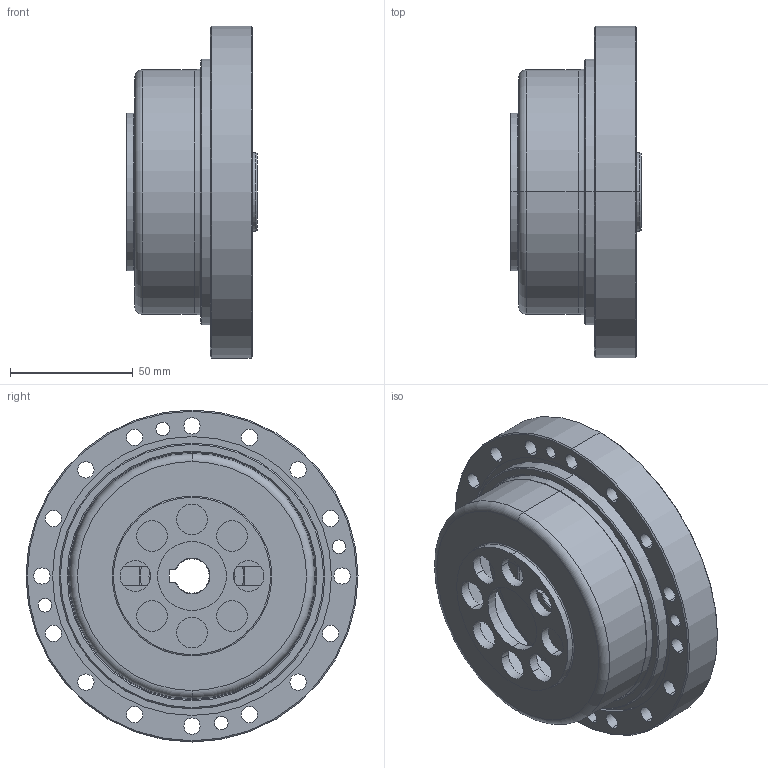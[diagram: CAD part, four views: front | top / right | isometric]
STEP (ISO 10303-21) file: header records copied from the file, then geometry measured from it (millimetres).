
FILE_DESCRIPTION (( 'STEP AP203' ), '1' );
FILE_NAME ('LCS-40-160-P-II.STEP', '2017-06-05T00:39:57', ( 'Windows 蚚誧' ), ( 'Users' ), 'SwSTEP 2.0', 'SolidWorks 2013', '' );
FILE_SCHEMA (( 'CONFIG_CONTROL_DESIGN' ));
Length unit declared in the file: millimetre
Products named in the file (12): 疏楷汜ん40-II; LJ-40G-II; LHS-40-XXX-P02-I; SZ-40-II; LCS-40-160-P-II; LCS-40-XXX-P03-II; DB-40-II; 粣噤32; RZC-40内外圈+钢球; RZC-40悵厥殤; 柔性轴承RZC-40; LCS-40-XXX-P01-II
Assembly tree (11 placements, depth 4):
  LCS-40-160-P-II
    LCS-40-XXX-P01-II
    疏楷汜ん40-II
      LJ-40G-II
      SZ-40-II
      LCS-40-XXX-P03-II
      DB-40-II
      粣噤32
      柔性轴承RZC-40
        RZC-40内外圈+钢球
        RZC-40悵厥殤
    LHS-40-XXX-P02-I
Bounding box: 53 x 135 x 135 mm (x, y, z)
Volume: 261820.4 mm3; surface area: 156370.2 mm2
Topology: 33 solids, 33 shells, 474 faces, 1262 edges, 823 vertices
Faces by surface type: cylinder 213, plane 128, cone 55, sphere 46, torus 32
Entity records: 15633 total; most frequent: DIRECTION 2795, CARTESIAN_POINT 2499, ORIENTED_EDGE 2294, AXIS2_PLACEMENT_3D 1194, EDGE_CURVE 1147, VERTEX_POINT 754, CIRCLE 704, EDGE_LOOP 567
